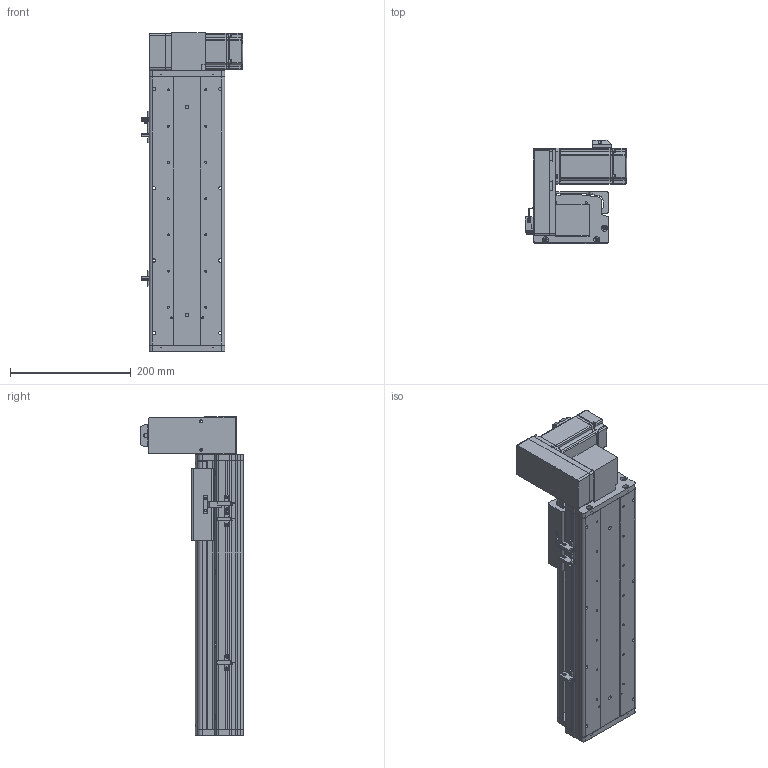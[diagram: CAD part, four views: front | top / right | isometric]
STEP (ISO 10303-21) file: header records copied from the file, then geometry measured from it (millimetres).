
FILE_DESCRIPTION (( 'STEP AP214' ), '1' );
FILE_NAME ('KSD125B-S250-MRU-CM.STEP', '2017-10-21T07:20:29', ( '微软用户' ), ( '微软中国' ), 'SwSTEP 2.0', 'SolidWorks 2014', '' );
FILE_SCHEMA (( 'AUTOMOTIVE_DESIGN' ));
Length unit declared in the file: millimetre
Products named in the file (17): KSD125B-S250-MRU-CM; 悵誘欶奻狟殏; HTPA30S3M150_A_H6_a佪裝蚚; HTPA30S3M150_A_H6_a萇儂蚚; 100宽马达安装板连板上下折丝杆同步带; KSD125模组250行程同步带-防尘盖; 125模组250行程同步带-底板; MHMD042G1CA_2_03; KSD125模组同步带-防撞垫2; 覜茼え68遵圉猾敕; U倰嫖萇假蚾璃; U倰嫖萇EEㄜSX672; KSD125模组同步带-防撞垫1; 100宽马达安装板同步带右; 前端板-125宽模组同步带; 125模组同步带-尾端板1; KSD125模组同步带-滑动座1
Assembly tree (20 placements, depth 2):
  KSD125B-S250-MRU-CM
    KSD125模组同步带-滑动座1
    125模组同步带-尾端板1
    前端板-125宽模组同步带
    100宽马达安装板同步带右
    KSD125模组同步带-防撞垫1
    U倰嫖萇EEㄜSX672  x3
    U倰嫖萇假蚾璃  x3
    覜茼え68遵圉猾敕
    KSD125模组同步带-防撞垫2
    MHMD042G1CA_2_03
    125模组250行程同步带-底板
    KSD125模组250行程同步带-防尘盖
    100宽马达安装板连板上下折丝杆同步带
    HTPA30S3M150_A_H6_a萇儂蚚
    HTPA30S3M150_A_H6_a佪裝蚚
    悵誘欶奻狟殏
Bounding box: 168.7 x 170.5 x 527 mm (x, y, z)
Volume: 1924682.6 mm3; surface area: 689266.3 mm2
Topology: 19 solids, 22 shells, 2203 faces, 6373 edges, 4210 vertices
Faces by surface type: cylinder 1360, plane 716, cone 105, bspline 22
Entity records: 77843 total; most frequent: CARTESIAN_POINT 15411, DIRECTION 12114, ORIENTED_EDGE 11266, EDGE_CURVE 5711, AXIS2_PLACEMENT_3D 4665, VERTEX_POINT 3802, LINE 2784, VECTOR 2784
